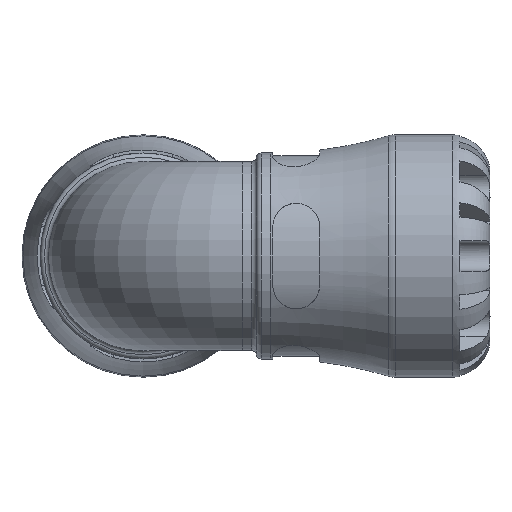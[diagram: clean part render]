
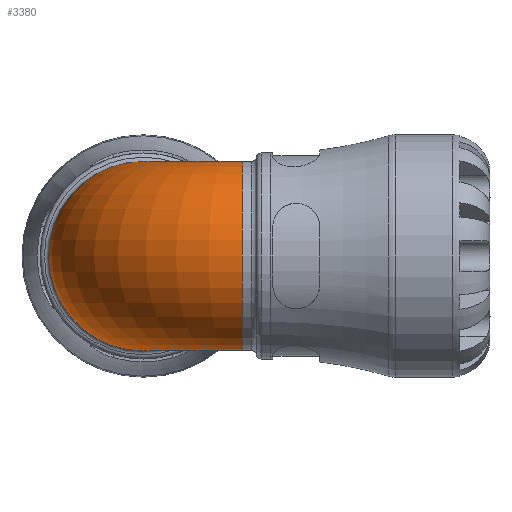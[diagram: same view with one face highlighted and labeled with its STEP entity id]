
A CAD part, front view. The second image highlights one B-rep face of the part: STEP entity #3380.
In plain terms, the highlighted toroidal (fillet/blend) face has major radius 23.755 mm and minor radius 22.62 mm.
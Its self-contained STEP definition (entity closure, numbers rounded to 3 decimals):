
#847=FACE_OUTER_BOUND('',#1043,.T.);
#1043=EDGE_LOOP('',(#2331,#2332,#2333,#2334,#2335,#2336));
#1253=CIRCLE('',#3602,22.62);
#1254=CIRCLE('',#3603,1.135);
#1255=CIRCLE('',#3604,22.62);
#1256=CIRCLE('',#3605,22.62);
#1257=CIRCLE('',#3606,22.62);
#1473=VERTEX_POINT('',#5032);
#1474=VERTEX_POINT('',#5033);
#1475=VERTEX_POINT('',#5035);
#1476=VERTEX_POINT('',#5037);
#1809=EDGE_CURVE('',#1473,#1474,#1253,.T.);
#1810=EDGE_CURVE('',#1473,#1475,#1254,.T.);
#1811=EDGE_CURVE('',#1476,#1475,#1255,.T.);
#1812=EDGE_CURVE('',#1475,#1476,#1256,.T.);
#1813=EDGE_CURVE('',#1474,#1473,#1257,.T.);
#2331=ORIENTED_EDGE('',*,*,#1809,.F.);
#2332=ORIENTED_EDGE('',*,*,#1810,.T.);
#2333=ORIENTED_EDGE('',*,*,#1811,.F.);
#2334=ORIENTED_EDGE('',*,*,#1812,.F.);
#2335=ORIENTED_EDGE('',*,*,#1810,.F.);
#2336=ORIENTED_EDGE('',*,*,#1813,.F.);
#3368=TOROIDAL_SURFACE('',#3601,23.755,22.62);
#3380=ADVANCED_FACE('',(#847),#3368,.T.);
#3601=AXIS2_PLACEMENT_3D('',#5031,#4026,#4027);
#3602=AXIS2_PLACEMENT_3D('',#5034,#4028,#4029);
#3603=AXIS2_PLACEMENT_3D('',#5036,#4030,#4031);
#3604=AXIS2_PLACEMENT_3D('',#5038,#4032,#4033);
#3605=AXIS2_PLACEMENT_3D('',#5039,#4034,#4035);
#3606=AXIS2_PLACEMENT_3D('',#5040,#4036,#4037);
#4026=DIRECTION('center_axis',(0.,0.,1.));
#4027=DIRECTION('ref_axis',(1.,0.,0.));
#4028=DIRECTION('center_axis',(1.,0.,0.));
#4029=DIRECTION('ref_axis',(0.,0.,-1.));
#4030=DIRECTION('center_axis',(0.,0.,-1.));
#4031=DIRECTION('ref_axis',(1.,0.,0.));
#4032=DIRECTION('center_axis',(0.,1.,0.));
#4033=DIRECTION('ref_axis',(0.,0.,-1.));
#4034=DIRECTION('center_axis',(0.,1.,0.));
#4035=DIRECTION('ref_axis',(0.,0.,-1.));
#4036=DIRECTION('center_axis',(1.,0.,0.));
#4037=DIRECTION('ref_axis',(0.,0.,-1.));
#5031=CARTESIAN_POINT('Origin',(23.755,23.755,0.));
#5032=CARTESIAN_POINT('',(23.755,22.62,0.));
#5033=CARTESIAN_POINT('',(23.755,-22.62,0.));
#5034=CARTESIAN_POINT('Origin',(23.755,0.,0.));
#5035=CARTESIAN_POINT('',(22.62,23.755,0.));
#5036=CARTESIAN_POINT('Origin',(23.755,23.755,0.));
#5037=CARTESIAN_POINT('',(0.,23.755,-22.62));
#5038=CARTESIAN_POINT('Origin',(0.,23.755,0.));
#5039=CARTESIAN_POINT('Origin',(0.,23.755,0.));
#5040=CARTESIAN_POINT('Origin',(23.755,0.,0.));
